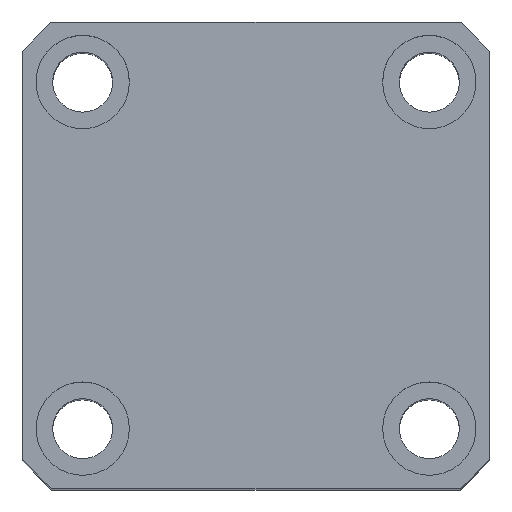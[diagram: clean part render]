
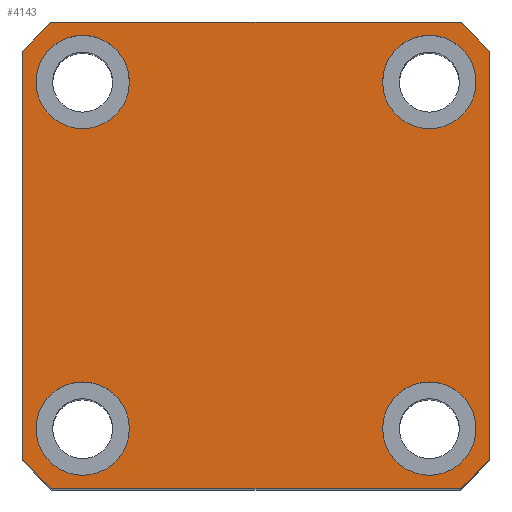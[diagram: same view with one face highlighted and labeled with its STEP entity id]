
A CAD part, top view. The second image highlights one B-rep face of the part: STEP entity #4143.
In plain terms, the highlighted planar face has unit normal (0, 0, 1).
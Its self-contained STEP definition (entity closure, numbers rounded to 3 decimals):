
#35 = CARTESIAN_POINT ( 'NONE',  ( 26., -26., 120. ) ) ;
#49 = ORIENTED_EDGE ( 'NONE', *, *, #6506, .F. ) ;
#90 = DIRECTION ( 'NONE',  ( 0., 1., 0. ) ) ;
#167 = EDGE_CURVE ( 'NONE', #6855, #7605, #3701, .T. ) ;
#200 = DIRECTION ( 'NONE',  ( 1., 0., 0. ) ) ;
#287 = CARTESIAN_POINT ( 'NONE',  ( 0., 0., 120. ) ) ;
#332 = VECTOR ( 'NONE', #3736, 1000. ) ;
#409 = VERTEX_POINT ( 'NONE', #2086 ) ;
#480 = EDGE_LOOP ( 'NONE', ( #8549, #4998 ) ) ;
#522 = CARTESIAN_POINT ( 'NONE',  ( -35., -30.615, 120. ) ) ;
#571 = EDGE_CURVE ( 'NONE', #5677, #1556, #9340, .T. ) ;
#606 = CARTESIAN_POINT ( 'NONE',  ( 0., 0., 120. ) ) ;
#637 = CARTESIAN_POINT ( 'NONE',  ( -35., 35., 120. ) ) ;
#717 = FACE_BOUND ( 'NONE', #480, .T. ) ;
#737 = VERTEX_POINT ( 'NONE', #9783 ) ;
#742 = CARTESIAN_POINT ( 'NONE',  ( -26., -26., 120. ) ) ;
#795 = DIRECTION ( 'NONE',  ( 1., 0., 0. ) ) ;
#846 = CARTESIAN_POINT ( 'NONE',  ( 35., -30.615, 120. ) ) ;
#861 = EDGE_CURVE ( 'NONE', #7605, #6855, #4953, .T. ) ;
#1007 = ORIENTED_EDGE ( 'NONE', *, *, #3434, .T. ) ;
#1063 = EDGE_CURVE ( 'NONE', #9145, #9390, #8123, .T. ) ;
#1083 = CIRCLE ( 'NONE', #8889, 7. ) ;
#1170 = VERTEX_POINT ( 'NONE', #6498 ) ;
#1307 = DIRECTION ( 'NONE',  ( 1., 0., 0. ) ) ;
#1353 = DIRECTION ( 'NONE',  ( 1., 0., 0. ) ) ;
#1440 = EDGE_CURVE ( 'NONE', #9390, #4344, #5923, .T. ) ;
#1491 = DIRECTION ( 'NONE',  ( 1., 0., 0. ) ) ;
#1527 = CARTESIAN_POINT ( 'NONE',  ( 30.615, 35., 120. ) ) ;
#1550 = CARTESIAN_POINT ( 'NONE',  ( 35., 35., 120. ) ) ;
#1556 = VERTEX_POINT ( 'NONE', #2173 ) ;
#1744 = CARTESIAN_POINT ( 'NONE',  ( 26., 26., 120. ) ) ;
#1784 = VECTOR ( 'NONE', #6500, 1000. ) ;
#1959 = CARTESIAN_POINT ( 'NONE',  ( -35., -35., 120. ) ) ;
#2086 = CARTESIAN_POINT ( 'NONE',  ( 33., 26., 120. ) ) ;
#2102 = LINE ( 'NONE', #637, #332 ) ;
#2138 = DIRECTION ( 'NONE',  ( 0., 0., 1. ) ) ;
#2173 = CARTESIAN_POINT ( 'NONE',  ( 30.615, -35., 120. ) ) ;
#2211 = AXIS2_PLACEMENT_3D ( 'NONE', #9125, #4472, #9892 ) ;
#2320 = CARTESIAN_POINT ( 'NONE',  ( -19., -26., 120. ) ) ;
#2328 = VERTEX_POINT ( 'NONE', #2320 ) ;
#2366 = VERTEX_POINT ( 'NONE', #846 ) ;
#2489 = CARTESIAN_POINT ( 'NONE',  ( 0., 0., 120. ) ) ;
#2540 = DIRECTION ( 'NONE',  ( 1., 0., 0. ) ) ;
#2644 = PLANE ( 'NONE',  #6686 ) ;
#2766 = FACE_BOUND ( 'NONE', #2961, .T. ) ;
#2807 = EDGE_CURVE ( 'NONE', #6415, #9145, #2102, .T. ) ;
#2928 = ORIENTED_EDGE ( 'NONE', *, *, #7944, .F. ) ;
#2961 = EDGE_LOOP ( 'NONE', ( #5230, #7534 ) ) ;
#3057 = EDGE_CURVE ( 'NONE', #2328, #6485, #3721, .T. ) ;
#3142 = VECTOR ( 'NONE', #6453, 1000. ) ;
#3165 = VECTOR ( 'NONE', #90, 1000. ) ;
#3174 = CARTESIAN_POINT ( 'NONE',  ( -33., 26., 120. ) ) ;
#3280 = DIRECTION ( 'NONE',  ( 1., 0., 0. ) ) ;
#3423 = DIRECTION ( 'NONE',  ( 1., 0., 0. ) ) ;
#3434 = EDGE_CURVE ( 'NONE', #4344, #5677, #6156, .T. ) ;
#3611 = AXIS2_PLACEMENT_3D ( 'NONE', #742, #6186, #1491 ) ;
#3630 = CIRCLE ( 'NONE', #6757, 46.5 ) ;
#3668 = CARTESIAN_POINT ( 'NONE',  ( -30.615, -35., 120. ) ) ;
#3701 = CIRCLE ( 'NONE', #4564, 7. ) ;
#3721 = CIRCLE ( 'NONE', #3611, 7. ) ;
#3736 = DIRECTION ( 'NONE',  ( -1., 0., 0. ) ) ;
#3766 = DIRECTION ( 'NONE',  ( 0., 0., 1. ) ) ;
#3994 = DIRECTION ( 'NONE',  ( 0., 0., 1. ) ) ;
#4082 = CARTESIAN_POINT ( 'NONE',  ( -33., -26., 120. ) ) ;
#4111 = CIRCLE ( 'NONE', #7693, 7. ) ;
#4134 = CARTESIAN_POINT ( 'NONE',  ( -35., 35., 120. ) ) ;
#4138 = CIRCLE ( 'NONE', #8500, 46.5 ) ;
#4143 = ADVANCED_FACE ( 'NONE', ( #6890, #2766, #4851, #717, #8755 ), #2644, .T. ) ;
#4173 = ORIENTED_EDGE ( 'NONE', *, *, #2807, .T. ) ;
#4176 = CARTESIAN_POINT ( 'NONE',  ( 0., 0., 120. ) ) ;
#4344 = VERTEX_POINT ( 'NONE', #522 ) ;
#4450 = VERTEX_POINT ( 'NONE', #9121 ) ;
#4454 = CIRCLE ( 'NONE', #6477, 7. ) ;
#4455 = EDGE_LOOP ( 'NONE', ( #7318, #5755, #4173, #8556, #8808, #1007, #7434, #8300 ) ) ;
#4472 = DIRECTION ( 'NONE',  ( 0., 0., 1. ) ) ;
#4520 = ORIENTED_EDGE ( 'NONE', *, *, #3057, .F. ) ;
#4564 = AXIS2_PLACEMENT_3D ( 'NONE', #5352, #3766, #6795 ) ;
#4720 = CARTESIAN_POINT ( 'NONE',  ( -30.615, 35., 120. ) ) ;
#4845 = DIRECTION ( 'NONE',  ( 0., 0., 1. ) ) ;
#4851 = FACE_BOUND ( 'NONE', #6954, .T. ) ;
#4953 = CIRCLE ( 'NONE', #6702, 7. ) ;
#4998 = ORIENTED_EDGE ( 'NONE', *, *, #167, .F. ) ;
#5198 = CIRCLE ( 'NONE', #7293, 7. ) ;
#5204 = LINE ( 'NONE', #1550, #3165 ) ;
#5230 = ORIENTED_EDGE ( 'NONE', *, *, #6816, .F. ) ;
#5283 = EDGE_LOOP ( 'NONE', ( #4520, #2928 ) ) ;
#5352 = CARTESIAN_POINT ( 'NONE',  ( -26., 26., 120. ) ) ;
#5395 = VERTEX_POINT ( 'NONE', #5492 ) ;
#5452 = DIRECTION ( 'NONE',  ( 0., 0., 1. ) ) ;
#5492 = CARTESIAN_POINT ( 'NONE',  ( 35., 30.615, 120. ) ) ;
#5677 = VERTEX_POINT ( 'NONE', #3668 ) ;
#5747 = ORIENTED_EDGE ( 'NONE', *, *, #9711, .F. ) ;
#5755 = ORIENTED_EDGE ( 'NONE', *, *, #8220, .T. ) ;
#5923 = LINE ( 'NONE', #4134, #1784 ) ;
#6041 = DIRECTION ( 'NONE',  ( 0., 0., 1. ) ) ;
#6156 = CIRCLE ( 'NONE', #7072, 46.5 ) ;
#6186 = DIRECTION ( 'NONE',  ( 0., 0., 1. ) ) ;
#6415 = VERTEX_POINT ( 'NONE', #1527 ) ;
#6453 = DIRECTION ( 'NONE',  ( 1., 0., 0. ) ) ;
#6477 = AXIS2_PLACEMENT_3D ( 'NONE', #35, #5452, #795 ) ;
#6485 = VERTEX_POINT ( 'NONE', #4082 ) ;
#6498 = CARTESIAN_POINT ( 'NONE',  ( 19., -26., 120. ) ) ;
#6500 = DIRECTION ( 'NONE',  ( 0., -1., 0. ) ) ;
#6506 = EDGE_CURVE ( 'NONE', #737, #409, #4111, .T. ) ;
#6544 = CARTESIAN_POINT ( 'NONE',  ( -26., 26., 120. ) ) ;
#6664 = DIRECTION ( 'NONE',  ( 0., 0., 1. ) ) ;
#6686 = AXIS2_PLACEMENT_3D ( 'NONE', #4176, #8083, #3423 ) ;
#6702 = AXIS2_PLACEMENT_3D ( 'NONE', #6544, #6664, #1307 ) ;
#6757 = AXIS2_PLACEMENT_3D ( 'NONE', #2489, #7938, #3280 ) ;
#6795 = DIRECTION ( 'NONE',  ( 1., 0., 0. ) ) ;
#6802 = CARTESIAN_POINT ( 'NONE',  ( 0., 0., 120. ) ) ;
#6816 = EDGE_CURVE ( 'NONE', #4450, #1170, #4454, .T. ) ;
#6855 = VERTEX_POINT ( 'NONE', #3174 ) ;
#6890 = FACE_BOUND ( 'NONE', #5283, .T. ) ;
#6954 = EDGE_LOOP ( 'NONE', ( #5747, #49 ) ) ;
#7072 = AXIS2_PLACEMENT_3D ( 'NONE', #606, #6041, #1353 ) ;
#7185 = DIRECTION ( 'NONE',  ( 0., 0., 1. ) ) ;
#7293 = AXIS2_PLACEMENT_3D ( 'NONE', #9498, #4845, #200 ) ;
#7318 = ORIENTED_EDGE ( 'NONE', *, *, #7550, .T. ) ;
#7434 = ORIENTED_EDGE ( 'NONE', *, *, #571, .T. ) ;
#7534 = ORIENTED_EDGE ( 'NONE', *, *, #7591, .F. ) ;
#7550 = EDGE_CURVE ( 'NONE', #2366, #5395, #5204, .T. ) ;
#7580 = DIRECTION ( 'NONE',  ( 1., 0., 0. ) ) ;
#7591 = EDGE_CURVE ( 'NONE', #1170, #4450, #1083, .T. ) ;
#7605 = VERTEX_POINT ( 'NONE', #7850 ) ;
#7693 = AXIS2_PLACEMENT_3D ( 'NONE', #1744, #7185, #2540 ) ;
#7762 = AXIS2_PLACEMENT_3D ( 'NONE', #287, #8794, #9557 ) ;
#7850 = CARTESIAN_POINT ( 'NONE',  ( -19., 26., 120. ) ) ;
#7938 = DIRECTION ( 'NONE',  ( 0., 0., 1. ) ) ;
#7944 = EDGE_CURVE ( 'NONE', #6485, #2328, #8764, .T. ) ;
#8083 = DIRECTION ( 'NONE',  ( 0., 0., 1. ) ) ;
#8123 = CIRCLE ( 'NONE', #7762, 46.5 ) ;
#8220 = EDGE_CURVE ( 'NONE', #5395, #6415, #4138, .T. ) ;
#8300 = ORIENTED_EDGE ( 'NONE', *, *, #9693, .T. ) ;
#8500 = AXIS2_PLACEMENT_3D ( 'NONE', #6802, #2138, #7580 ) ;
#8549 = ORIENTED_EDGE ( 'NONE', *, *, #861, .F. ) ;
#8556 = ORIENTED_EDGE ( 'NONE', *, *, #1063, .T. ) ;
#8644 = CARTESIAN_POINT ( 'NONE',  ( 26., -26., 120. ) ) ;
#8755 = FACE_OUTER_BOUND ( 'NONE', #4455, .T. ) ;
#8764 = CIRCLE ( 'NONE', #2211, 7. ) ;
#8794 = DIRECTION ( 'NONE',  ( 0., 0., 1. ) ) ;
#8808 = ORIENTED_EDGE ( 'NONE', *, *, #1440, .T. ) ;
#8889 = AXIS2_PLACEMENT_3D ( 'NONE', #8644, #3994, #9411 ) ;
#9121 = CARTESIAN_POINT ( 'NONE',  ( 33., -26., 120. ) ) ;
#9125 = CARTESIAN_POINT ( 'NONE',  ( -26., -26., 120. ) ) ;
#9145 = VERTEX_POINT ( 'NONE', #4720 ) ;
#9340 = LINE ( 'NONE', #1959, #3142 ) ;
#9390 = VERTEX_POINT ( 'NONE', #9578 ) ;
#9411 = DIRECTION ( 'NONE',  ( 1., 0., 0. ) ) ;
#9498 = CARTESIAN_POINT ( 'NONE',  ( 26., 26., 120. ) ) ;
#9557 = DIRECTION ( 'NONE',  ( 1., 0., 0. ) ) ;
#9578 = CARTESIAN_POINT ( 'NONE',  ( -35., 30.615, 120. ) ) ;
#9693 = EDGE_CURVE ( 'NONE', #1556, #2366, #3630, .T. ) ;
#9711 = EDGE_CURVE ( 'NONE', #409, #737, #5198, .T. ) ;
#9783 = CARTESIAN_POINT ( 'NONE',  ( 19., 26., 120. ) ) ;
#9892 = DIRECTION ( 'NONE',  ( 1., 0., 0. ) ) ;
